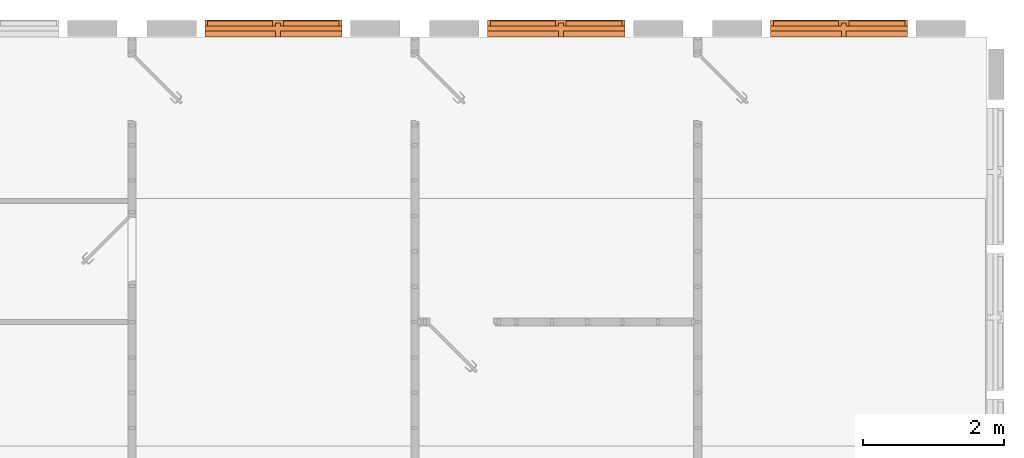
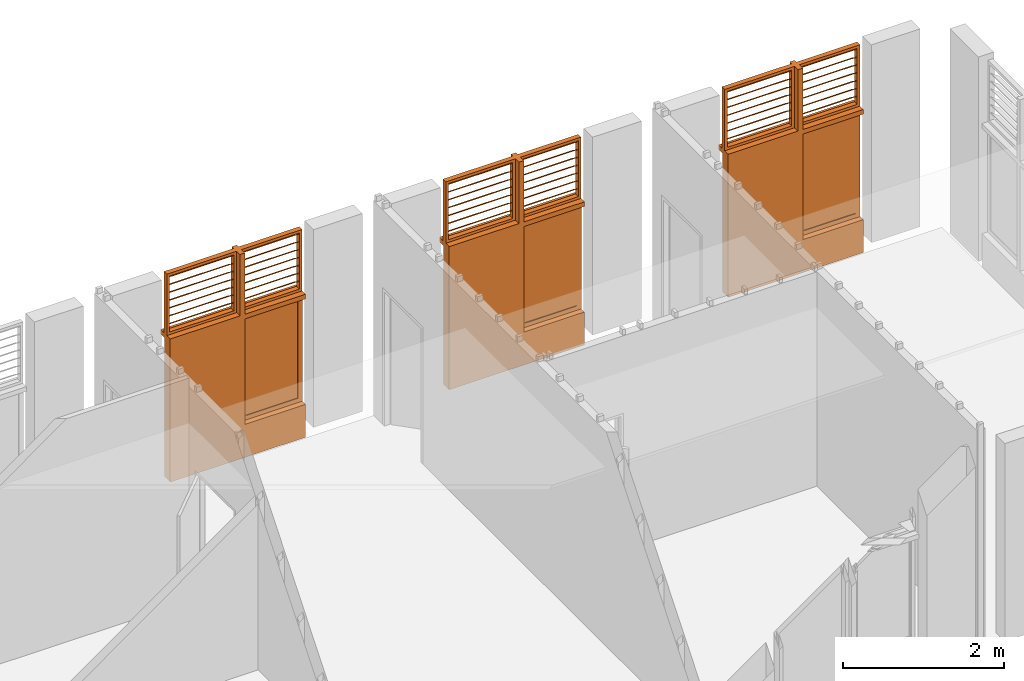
# One storey, part 20 of 20: 3 proxies.
"""IFC2X3 building model written with IfcOpenShell, lengths in metres."""

import ifcopenshell
import ifcopenshell.guid

model = None  # the IFC model being written
_history = None  # IfcOwnerHistory: only IFC2X3 demands one
_inside = {}  # id of a spatial element -> (the spatial element, [elements in it])
_under = {}  # id of a project, library or spatial element -> (it, [spatial elements below it])
_declared = {}  # id of a project -> (the project, [libraries it declares])
_typed = {}  # id of a type object -> (the type object, [elements of that type])
_made_of = {}  # id of a material, layer set ... -> (it, [elements and type objects made of it])


def new_model(schema):
    """Start an empty IFC model of exactly this schema.

    Asked for "IFC4X3", IfcOpenShell would pick the latest addendum, in which some entities
    have other attributes; the version numbers below select the first issue.
    IFC2X3 requires an IfcOwnerHistory on every rooted entity: one is made here for all.
    """
    global model, _history
    if schema == "IFC4X3":
        model = ifcopenshell.file(schema_version=(4, 3, 0, 0))
    else:
        model = ifcopenshell.file(schema=schema)
    _inside.clear()
    _under.clear()
    _declared.clear()
    _typed.clear()
    _made_of.clear()
    _history = None
    if model.schema == "IFC2X3":
        org = make("IfcOrganization", Name="unknown")
        user = make(
            "IfcPersonAndOrganization",
            ThePerson=make("IfcPerson", FamilyName="unknown"),
            TheOrganization=org,
        )
        app = make(
            "IfcApplication",
            ApplicationDeveloper=org,
            Version="unknown",
            ApplicationFullName="unknown",
            ApplicationIdentifier="unknown",
        )
        _history = make(
            "IfcOwnerHistory",
            OwningUser=user,
            OwningApplication=app,
            ChangeAction="ADDED",
            CreationDate=0,
        )
    return model


def make(cls, **values):
    """One entity of the class cls with the attributes given. An attribute that is None is left unset."""
    return model.create_entity(
        cls, **{name: value for name, value in values.items() if value is not None}
    )


def entity(cls, *values):
    """Any entity or typed value of the class cls, its attributes in the order of the schema. None: left unset."""
    e = model.create_entity(cls)
    for i, value in enumerate(values):
        if value is not None:
            e[i] = value
    return e


def rooted(cls, **values):
    """An entity with a GlobalId (a new one), such as an element, a storey or a relation."""
    return make(cls, GlobalId=ifcopenshell.guid.new(), OwnerHistory=_history, **values)


def si_unit(unit_type, name, prefix=None):
    """IfcSIUnit, for example si_unit("LENGTHUNIT", "METRE", prefix="MILLI")."""
    return make("IfcSIUnit", UnitType=unit_type, Prefix=prefix, Name=name)


def converted_unit(unit_type, name, factor, base, dimensions=None, offset=None):
    """IfcConversionBasedUnit, such as the inch: factor (a typed value) times the base unit."""
    return make(
        "IfcConversionBasedUnit"
        if offset is None
        else "IfcConversionBasedUnitWithOffset",
        ConversionOffset=offset,
        Dimensions=None
        if dimensions is None
        else entity("IfcDimensionalExponents", *dimensions),
        UnitType=unit_type,
        Name=name,
        ConversionFactor=make(
            "IfcMeasureWithUnit", ValueComponent=factor, UnitComponent=base
        ),
    )


def derived_unit(unit_type, elements):
    """IfcDerivedUnit: a product of units, each with its exponent."""
    return make(
        "IfcDerivedUnit",
        Elements=[
            make("IfcDerivedUnitElement", Unit=unit, Exponent=power)
            for unit, power in elements
        ],
        UnitType=unit_type,
    )


def assignment(units):
    """IfcUnitAssignment: the units of a project."""
    return None if units is None else make("IfcUnitAssignment", Units=units)


def point(xyz):
    """IfcCartesianPoint."""
    return None if xyz is None else make("IfcCartesianPoint", Coordinates=xyz)


def direction(xyz):
    """IfcDirection."""
    return None if xyz is None else make("IfcDirection", DirectionRatios=xyz)


def frame(location, z_axis=None, x_axis=None):
    """IfcAxis2Placement3D, a coordinate frame: its origin and axes. An axis left out is left unset."""
    return make(
        "IfcAxis2Placement3D",
        Location=point(location),
        Axis=direction(z_axis),
        RefDirection=direction(x_axis),
    )


def origin():
    """The frame at (0, 0, 0) with its axes left unset."""
    return frame((0.0, 0.0, 0.0))


def place(relative_to, where):
    """IfcLocalPlacement: puts the frame where relative to a parent placement (None: the world)."""
    return make(
        "IfcLocalPlacement", PlacementRelTo=relative_to, RelativePlacement=where
    )


def context(
    kind, dimensions, precision=None, world=None, true_north=None, identifier=None
):
    """IfcGeometricRepresentationContext, for example the 3D "Model" context."""
    return make(
        "IfcGeometricRepresentationContext",
        ContextIdentifier=identifier,
        ContextType=kind,
        CoordinateSpaceDimension=dimensions,
        Precision=precision,
        WorldCoordinateSystem=world,
        TrueNorth=true_north,
    )


def subcontext(parent, identifier, kind, view, scale=None):
    """IfcGeometricRepresentationSubContext, for example "Body" below "Model"."""
    return make(
        "IfcGeometricRepresentationSubContext",
        ContextIdentifier=identifier,
        ContextType=kind,
        ParentContext=parent,
        TargetScale=scale,
        TargetView=view,
    )


def project(units=None, contexts=None):
    """IfcProject with its units and contexts."""
    return rooted(
        "IfcProject",
        Name="project",
        RepresentationContexts=contexts,
        UnitsInContext=assignment(units),
    )


def spatial(cls, under=None, at=None, **own):
    """A site, building, storey or space (cls), placed at a placement, below another one or the project."""
    s = rooted(cls, ObjectPlacement=at, **own)
    if under is not None:
        _under.setdefault(under.id(), (under, []))[1].append(s)
    return s


def faces_of(points, faces, orient=None, outer=None):
    """IfcFace entities. A face is a list of loops; a loop is a list of indices into points, from 0.

    orient and outer hold one flag for each loop. By default every Orientation is true, the
    first loop of a face is its IfcFaceOuterBound and the others are IfcFaceBound.
    """
    made = []
    for i, loops in enumerate(faces):
        bounds = []
        for j, loop in enumerate(loops):
            is_outer = j == 0 if outer is None else outer[i][j]
            bounds.append(
                make(
                    "IfcFaceOuterBound" if is_outer else "IfcFaceBound",
                    Bound=make("IfcPolyLoop", Polygon=[points[k] for k in loop]),
                    Orientation=True if orient is None else orient[i][j],
                )
            )
        made.append(make("IfcFace", Bounds=bounds))
    return made


def faceted_brep(points, faces, orient=None, outer=None, voids=None):
    """IfcFacetedBrep: a solid bounded by flat faces; with voids (closed shells), ...WithVoids."""
    shared = [point(p) for p in points]
    hull = make("IfcClosedShell", CfsFaces=faces_of(shared, faces, orient, outer))
    if voids is None:
        return make("IfcFacetedBrep", Outer=hull)
    return make(
        "IfcFacetedBrepWithVoids",
        Outer=hull,
        Voids=[
            make(cls, CfsFaces=faces_of(shared, fs, o, b)) for cls, fs, o, b in voids
        ],
    )


def shape(context_of_items, identifier, shape_type, items):
    """IfcShapeRepresentation: the items that make up one representation, for example the "Body"."""
    return make(
        "IfcShapeRepresentation",
        ContextOfItems=context_of_items,
        RepresentationIdentifier=identifier,
        RepresentationType=shape_type,
        Items=items,
    )


def source(mapping_origin, context_of_items, identifier, shape_type, items):
    """IfcRepresentationMap: a shape defined once, which mapped items show again and again."""
    return make(
        "IfcRepresentationMap",
        MappingOrigin=mapping_origin,
        MappedRepresentation=shape(context_of_items, identifier, shape_type, items),
    )


def transform(
    local_origin,
    x_axis=None,
    y_axis=None,
    z_axis=None,
    scale=None,
    scale2=None,
    scale3=None,
    uniform=True,
):
    """IfcCartesianTransformationOperator3D, or its non-uniform kind. x_axis, y_axis, z_axis: its Axis1, 2, 3."""
    if uniform:
        return make(
            "IfcCartesianTransformationOperator3D",
            Axis1=direction(x_axis),
            Axis2=direction(y_axis),
            LocalOrigin=point(local_origin),
            Scale=scale,
            Axis3=direction(z_axis),
        )
    return make(
        "IfcCartesianTransformationOperator3DnonUniform",
        Axis1=direction(x_axis),
        Axis2=direction(y_axis),
        LocalOrigin=point(local_origin),
        Scale=scale,
        Axis3=direction(z_axis),
        Scale2=scale2,
        Scale3=scale3,
    )


def mapped(mapping_source, mapping_target):
    """IfcMappedItem: shows the shape of a source again, moved by a transform."""
    return make(
        "IfcMappedItem", MappingSource=mapping_source, MappingTarget=mapping_target
    )


def material(Name=None, Category=None):
    """IfcMaterial."""
    return make("IfcMaterial", Name=Name, Category=Category)


def material_list(materials):
    """IfcMaterialList."""
    return make("IfcMaterialList", Materials=materials)


def made_of(thing, what):
    """Note that an element or type object is made of a material, layer set ...; save() writes the relation."""
    if what is not None:
        _made_of.setdefault(what.id(), (what, []))[1].append(thing)
    return thing


def type_object(cls, material=None, **own):
    """A type object (cls), such as IfcWallType, which elements share."""
    return made_of(rooted(cls, **own), material)


def type_shapes(of_type, sources):
    """Give a type object the sources (RepresentationMaps) that its elements show as mapped items."""
    of_type.RepresentationMaps = sources


def element(
    cls,
    number,
    at=None,
    inside=None,
    cuts=None,
    type_object=None,
    material=None,
    context=None,
    identifier="Body",
    shape_type=None,
    held_by="IfcProductDefinitionShape",
    body=None,
    shapes=None,
    **own,
):
    """One element of the class cls, such as IfcWall. Its Tag is "e" and its number.

    at: its placement. inside: the storey or other place that contains it. cuts: it is an
    opening in that element (IfcRelVoidsElement). A single representation is given by context,
    identifier, shape_type and body (its items); several are given by shapes. held_by: the class
    of the entity that holds the representations. save() writes the other relations.
    """
    e = rooted(cls, Tag="e%d" % number, ObjectPlacement=at, **own)
    if body is not None:
        shapes = [shape(context, identifier, shape_type, body)]
    if shapes is not None:
        e.Representation = make(held_by, Representations=shapes)
    if inside is not None:
        _inside.setdefault(inside.id(), (inside, []))[1].append(e)
    if cuts is not None:
        rooted(
            "IfcRelVoidsElement", RelatingBuildingElement=cuts, RelatedOpeningElement=e
        )
    if type_object is not None:
        _typed.setdefault(type_object.id(), (type_object, []))[1].append(e)
    return made_of(e, material)


def aggregate(whole, parts):
    """IfcRelAggregates: a whole, such as a stair, and the parts it consists of."""
    return rooted("IfcRelAggregates", RelatingObject=whole, RelatedObjects=parts)


def save(model, path):
    """Write the relations noted so far, then the file.

    IfcRelAggregates (storeys below a building ...), IfcRelContainedInSpatialStructure (elements
    in a storey), IfcRelDefinesByType, IfcRelAssociatesMaterial and IfcRelDeclares: one each for
    every whole, place, type object, material and project.
    """
    for whole, parts in _under.values():
        aggregate(whole, parts)
    for where, things in _inside.values():
        rooted(
            "IfcRelContainedInSpatialStructure",
            RelatedElements=things,
            RelatingStructure=where,
        )
    for kind, things in _typed.values():
        rooted("IfcRelDefinesByType", RelatedObjects=things, RelatingType=kind)
    for what, things in _made_of.values():
        rooted("IfcRelAssociatesMaterial", RelatedObjects=things, RelatingMaterial=what)
    for by, libraries in _declared.values():
        rooted("IfcRelDeclares", RelatingContext=by, RelatedDefinitions=libraries)
    model.write(path)


model = new_model("IFC2X3")

# Units and contexts
model_context = context("Model", 3, precision=1e-05, world=origin(), true_north=direction((6.12303176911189e-17, 1.0)))
body_context = subcontext(model_context, "Body", "Model", "MODEL_VIEW")
ifc_project = project(units=[si_unit("LENGTHUNIT", "METRE"), si_unit("AREAUNIT", "SQUARE_METRE"), si_unit("VOLUMEUNIT", "CUBIC_METRE"), converted_unit("PLANEANGLEUNIT", "DEGREE", entity("IfcRatioMeasure", 0.0174532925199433), si_unit("PLANEANGLEUNIT", "RADIAN"), dimensions=[0, 0, 0, 0, 0, 0, 0]), si_unit("MASSUNIT", "GRAM", prefix="KILO"), derived_unit("MASSDENSITYUNIT", [(si_unit("MASSUNIT", "GRAM", prefix="KILO"), 1), (si_unit("LENGTHUNIT", "METRE"), -3)]), si_unit("TIMEUNIT", "SECOND"), si_unit("FREQUENCYUNIT", "HERTZ"), si_unit("THERMODYNAMICTEMPERATUREUNIT", "DEGREE_CELSIUS"), derived_unit("THERMALTRANSMITTANCEUNIT", [(si_unit("MASSUNIT", "GRAM", prefix="KILO"), 1), (si_unit("THERMODYNAMICTEMPERATUREUNIT", "KELVIN"), -1), (si_unit("TIMEUNIT", "SECOND"), -3)]), derived_unit("VOLUMETRICFLOWRATEUNIT", [(si_unit("LENGTHUNIT", "METRE"), 3), (si_unit("TIMEUNIT", "SECOND"), -1)]), si_unit("ELECTRICCURRENTUNIT", "AMPERE"), si_unit("ELECTRICVOLTAGEUNIT", "VOLT"), si_unit("POWERUNIT", "WATT"), si_unit("FORCEUNIT", "NEWTON", prefix="KILO"), si_unit("ILLUMINANCEUNIT", "LUX"), si_unit("LUMINOUSFLUXUNIT", "LUMEN"), si_unit("LUMINOUSINTENSITYUNIT", "CANDELA"), derived_unit("USERDEFINED", [(si_unit("MASSUNIT", "GRAM", prefix="KILO"), -1), (si_unit("LENGTHUNIT", "METRE"), -2), (si_unit("TIMEUNIT", "SECOND"), 3), (si_unit("LUMINOUSFLUXUNIT", "LUMEN"), 1)]), derived_unit("LINEARVELOCITYUNIT", [(si_unit("LENGTHUNIT", "METRE"), 1), (si_unit("TIMEUNIT", "SECOND"), -1)]), si_unit("PRESSUREUNIT", "PASCAL"), derived_unit("USERDEFINED", [(si_unit("LENGTHUNIT", "METRE"), -2), (si_unit("MASSUNIT", "GRAM", prefix="KILO"), 1), (si_unit("TIMEUNIT", "SECOND"), -2)])], contexts=[model_context])

# Site, building, storey
site_placement = place(None, origin())
site = spatial("IfcSite", under=ifc_project, at=site_placement, Name="Surface", CompositionType="ELEMENT")
building_placement = place(site_placement, origin())
building = spatial("IfcBuilding", under=site, at=building_placement, Name="ExPREF", CompositionType="ELEMENT")
storey_placement = place(building_placement, frame((0.0, 0.0, 4.27)))
storey = spatial("IfcBuildingStorey", under=building, at=storey_placement, Name="R+1", CompositionType="ELEMENT", Elevation=4.27)

# Proxies
ifc_material_1 = material(Name="AA-Aluminium")
ifc_material_2 = material(Name="AA-vitrage")
ifc_material_3 = material(Name="AA-bois menuiseries")
ifc_material_list_1 = material_list([ifc_material_1, ifc_material_2, ifc_material_3])
ifc_material_list_2 = material_list([ifc_material_1, ifc_material_2, ifc_material_3])
building_element_proxy_type = type_object("IfcBuildingElementProxyType", Name="R+2 porte + fenetre", PredefinedType="NOTDEFINED", material=ifc_material_list_2)
shared_shape = source(origin(), body_context, "Body", "Brep", [
    faceted_brep([(0.139999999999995, 0.113917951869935, 3.02140538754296), (0.139999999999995, 0.0970656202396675, 3.03320551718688), (0.139999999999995, 0.101483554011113, 3.03951498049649), (0.139999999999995, 0.11833588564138, 3.02771485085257), (0.930000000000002, 0.113917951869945, 3.02140538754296), (0.930000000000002, 0.118335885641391, 3.02771485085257), (0.930000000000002, 0.101483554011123, 3.03951498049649), (0.930000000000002, 0.0970656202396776, 3.03320551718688)], [[[0, 1, 2, 3]], [[4, 5, 6, 7]], [[1, 0, 4, 7]], [[2, 1, 7, 6]], [[3, 2, 6, 5]], [[0, 3, 5, 4]]]),
    faceted_brep([(0.139999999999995, 0.114720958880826, 3.02255220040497), (0.139999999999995, 0.117588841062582, 3.02664796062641), (0.139999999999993, 0.223609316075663, 2.95241162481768), (0.139999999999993, 0.220741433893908, 2.94831586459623), (0.930000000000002, 0.114720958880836, 3.02255220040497), (0.93, 0.220741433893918, 2.94831586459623), (0.93, 0.223609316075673, 2.95241162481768), (0.930000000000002, 0.117588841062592, 3.02664796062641)], [[[0, 1, 2, 3]], [[4, 5, 6, 7]], [[1, 0, 4, 7]], [[2, 1, 7, 6]], [[3, 2, 6, 5]], [[0, 3, 5, 4]]]),
    faceted_brep([(-0.930000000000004, 0.113917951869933, 3.02140538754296), (-0.930000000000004, 0.097065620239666, 3.03320551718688), (-0.930000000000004, 0.101483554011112, 3.03951498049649), (-0.930000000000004, 0.118335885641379, 3.02771485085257), (-0.00999999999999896, 0.113917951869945, 3.02140538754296), (-0.00999999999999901, 0.118335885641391, 3.02771485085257), (-0.0099999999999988, 0.101483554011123, 3.03951498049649), (-0.00999999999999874, 0.0970656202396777, 3.03320551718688)], [[[0, 1, 2, 3]], [[4, 5, 6, 7]], [[1, 0, 4, 7]], [[2, 1, 7, 6]], [[3, 2, 6, 5]], [[0, 3, 5, 4]]]),
    faceted_brep([(-0.930000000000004, 0.114720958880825, 3.02255220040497), (-0.930000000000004, 0.11758884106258, 3.02664796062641), (-0.930000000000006, 0.223609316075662, 2.95241162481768), (-0.930000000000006, 0.220741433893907, 2.94831586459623), (-0.00999999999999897, 0.114720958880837, 3.02255220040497), (-0.0100000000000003, 0.220741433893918, 2.94831586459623), (-0.0100000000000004, 0.223609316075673, 2.95241162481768), (-0.009999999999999, 0.117588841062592, 3.02664796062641)], [[[0, 1, 2, 3]], [[4, 5, 6, 7]], [[1, 0, 4, 7]], [[2, 1, 7, 6]], [[3, 2, 6, 5]], [[0, 3, 5, 4]]]),
    faceted_brep([(0.139999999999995, 0.113917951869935, 2.90240538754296), (0.139999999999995, 0.0970656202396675, 2.91420551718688), (0.139999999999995, 0.101483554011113, 2.92051498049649), (0.139999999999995, 0.11833588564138, 2.90871485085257), (0.930000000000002, 0.113917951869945, 2.90240538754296), (0.930000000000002, 0.118335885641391, 2.90871485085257), (0.930000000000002, 0.101483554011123, 2.92051498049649), (0.930000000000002, 0.0970656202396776, 2.91420551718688)], [[[0, 1, 2, 3]], [[4, 5, 6, 7]], [[1, 0, 4, 7]], [[2, 1, 7, 6]], [[3, 2, 6, 5]], [[0, 3, 5, 4]]]),
    faceted_brep([(0.139999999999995, 0.114720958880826, 2.90355220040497), (0.139999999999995, 0.117588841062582, 2.90764796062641), (0.139999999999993, 0.223609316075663, 2.83341162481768), (0.139999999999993, 0.220741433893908, 2.82931586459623), (0.930000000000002, 0.114720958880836, 2.90355220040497), (0.93, 0.220741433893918, 2.82931586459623), (0.93, 0.223609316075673, 2.83341162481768), (0.930000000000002, 0.117588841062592, 2.90764796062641)], [[[0, 1, 2, 3]], [[4, 5, 6, 7]], [[1, 0, 4, 7]], [[2, 1, 7, 6]], [[3, 2, 6, 5]], [[0, 3, 5, 4]]]),
    faceted_brep([(-0.930000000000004, 0.113917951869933, 2.90240538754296), (-0.930000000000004, 0.097065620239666, 2.91420551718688), (-0.930000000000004, 0.101483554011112, 2.92051498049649), (-0.930000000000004, 0.118335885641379, 2.90871485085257), (-0.00999999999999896, 0.113917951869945, 2.90240538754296), (-0.00999999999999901, 0.118335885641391, 2.90871485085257), (-0.0099999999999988, 0.101483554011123, 2.92051498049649), (-0.00999999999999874, 0.0970656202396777, 2.91420551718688)], [[[0, 1, 2, 3]], [[4, 5, 6, 7]], [[1, 0, 4, 7]], [[2, 1, 7, 6]], [[3, 2, 6, 5]], [[0, 3, 5, 4]]]),
    faceted_brep([(-0.930000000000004, 0.114720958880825, 2.90355220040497), (-0.930000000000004, 0.11758884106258, 2.90764796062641), (-0.930000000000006, 0.223609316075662, 2.83341162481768), (-0.930000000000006, 0.220741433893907, 2.82931586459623), (-0.00999999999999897, 0.114720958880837, 2.90355220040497), (-0.0100000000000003, 0.220741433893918, 2.82931586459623), (-0.0100000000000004, 0.223609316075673, 2.83341162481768), (-0.009999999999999, 0.117588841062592, 2.90764796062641)], [[[0, 1, 2, 3]], [[4, 5, 6, 7]], [[1, 0, 4, 7]], [[2, 1, 7, 6]], [[3, 2, 6, 5]], [[0, 3, 5, 4]]]),
    faceted_brep([(0.139999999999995, 0.113917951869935, 2.78340538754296), (0.139999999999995, 0.0970656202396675, 2.79520551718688), (0.139999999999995, 0.101483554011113, 2.80151498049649), (0.139999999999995, 0.11833588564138, 2.78971485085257), (0.930000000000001, 0.113917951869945, 2.78340538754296), (0.930000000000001, 0.118335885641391, 2.78971485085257), (0.930000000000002, 0.101483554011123, 2.80151498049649), (0.930000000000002, 0.0970656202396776, 2.79520551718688)], [[[0, 1, 2, 3]], [[4, 5, 6, 7]], [[1, 0, 4, 7]], [[2, 1, 7, 6]], [[3, 2, 6, 5]], [[0, 3, 5, 4]]]),
    faceted_brep([(0.139999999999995, 0.114720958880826, 2.78455220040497), (0.139999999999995, 0.117588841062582, 2.78864796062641), (0.139999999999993, 0.223609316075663, 2.71441162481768), (0.139999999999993, 0.220741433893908, 2.71031586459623), (0.930000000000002, 0.114720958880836, 2.78455220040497), (0.93, 0.220741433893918, 2.71031586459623), (0.93, 0.223609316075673, 2.71441162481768), (0.930000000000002, 0.117588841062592, 2.78864796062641)], [[[0, 1, 2, 3]], [[4, 5, 6, 7]], [[1, 0, 4, 7]], [[2, 1, 7, 6]], [[3, 2, 6, 5]], [[0, 3, 5, 4]]]),
    faceted_brep([(-0.930000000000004, 0.113917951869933, 2.78340538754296), (-0.930000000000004, 0.097065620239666, 2.79520551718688), (-0.930000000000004, 0.101483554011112, 2.80151498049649), (-0.930000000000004, 0.118335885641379, 2.78971485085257), (-0.00999999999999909, 0.113917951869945, 2.78340538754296), (-0.00999999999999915, 0.118335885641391, 2.78971485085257), (-0.00999999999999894, 0.101483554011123, 2.80151498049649), (-0.00999999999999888, 0.0970656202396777, 2.79520551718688)], [[[0, 1, 2, 3]], [[4, 5, 6, 7]], [[1, 0, 4, 7]], [[2, 1, 7, 6]], [[3, 2, 6, 5]], [[0, 3, 5, 4]]]),
    faceted_brep([(-0.930000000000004, 0.114720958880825, 2.78455220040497), (-0.930000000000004, 0.11758884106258, 2.78864796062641), (-0.930000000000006, 0.223609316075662, 2.71441162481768), (-0.930000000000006, 0.220741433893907, 2.71031586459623), (-0.0099999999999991, 0.114720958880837, 2.78455220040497), (-0.0100000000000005, 0.220741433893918, 2.71031586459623), (-0.0100000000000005, 0.223609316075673, 2.71441162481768), (-0.00999999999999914, 0.117588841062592, 2.78864796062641)], [[[0, 1, 2, 3]], [[4, 5, 6, 7]], [[1, 0, 4, 7]], [[2, 1, 7, 6]], [[3, 2, 6, 5]], [[0, 3, 5, 4]]]),
    faceted_brep([(-0.930000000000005, 0.113917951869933, 2.66440538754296), (-0.930000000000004, 0.097065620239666, 2.67620551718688), (-0.930000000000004, 0.101483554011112, 2.68251498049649), (-0.930000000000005, 0.118335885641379, 2.67071485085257), (-0.00999999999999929, 0.113917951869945, 2.66440538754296), (-0.00999999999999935, 0.118335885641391, 2.67071485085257), (-0.00999999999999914, 0.101483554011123, 2.68251498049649), (-0.00999999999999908, 0.0970656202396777, 2.67620551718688)], [[[0, 1, 2, 3]], [[4, 5, 6, 7]], [[1, 0, 4, 7]], [[2, 1, 7, 6]], [[3, 2, 6, 5]], [[0, 3, 5, 4]]]),
    faceted_brep([(-0.930000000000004, 0.114720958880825, 2.66555220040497), (-0.930000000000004, 0.11758884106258, 2.66964796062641), (-0.930000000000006, 0.223609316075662, 2.59541162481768), (-0.930000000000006, 0.220741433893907, 2.59131586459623), (-0.0099999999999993, 0.114720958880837, 2.66555220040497), (-0.0100000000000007, 0.220741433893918, 2.59131586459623), (-0.0100000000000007, 0.223609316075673, 2.59541162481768), (-0.00999999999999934, 0.117588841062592, 2.66964796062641)], [[[0, 1, 2, 3]], [[4, 5, 6, 7]], [[1, 0, 4, 7]], [[2, 1, 7, 6]], [[3, 2, 6, 5]], [[0, 3, 5, 4]]]),
    faceted_brep([(-0.930000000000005, 0.113917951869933, 2.54540538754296), (-0.930000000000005, 0.097065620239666, 2.55720551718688), (-0.930000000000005, 0.101483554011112, 2.56351498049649), (-0.930000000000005, 0.118335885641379, 2.55171485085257), (-0.0099999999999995, 0.113917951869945, 2.54540538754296), (-0.00999999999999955, 0.118335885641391, 2.55171485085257), (-0.00999999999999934, 0.101483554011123, 2.56351498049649), (-0.00999999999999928, 0.0970656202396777, 2.55720551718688)], [[[0, 1, 2, 3]], [[4, 5, 6, 7]], [[1, 0, 4, 7]], [[2, 1, 7, 6]], [[3, 2, 6, 5]], [[0, 3, 5, 4]]]),
    faceted_brep([(-0.930000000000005, 0.114720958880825, 2.54655220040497), (-0.930000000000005, 0.11758884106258, 2.55064796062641), (-0.930000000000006, 0.223609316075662, 2.47641162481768), (-0.930000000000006, 0.220741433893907, 2.47231586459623), (-0.00999999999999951, 0.114720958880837, 2.54655220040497), (-0.0100000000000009, 0.220741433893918, 2.47231586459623), (-0.0100000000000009, 0.223609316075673, 2.47641162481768), (-0.00999999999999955, 0.117588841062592, 2.55064796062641)], [[[0, 1, 2, 3]], [[4, 5, 6, 7]], [[1, 0, 4, 7]], [[2, 1, 7, 6]], [[3, 2, 6, 5]], [[0, 3, 5, 4]]]),
    faceted_brep([(0.139999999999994, 0.113917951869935, 2.66440538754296), (0.139999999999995, 0.0970656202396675, 2.67620551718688), (0.139999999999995, 0.101483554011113, 2.68251498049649), (0.139999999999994, 0.11833588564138, 2.67071485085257), (0.930000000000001, 0.113917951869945, 2.66440538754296), (0.930000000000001, 0.118335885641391, 2.67071485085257), (0.930000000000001, 0.101483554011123, 2.68251498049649), (0.930000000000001, 0.0970656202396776, 2.67620551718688)], [[[0, 1, 2, 3]], [[4, 5, 6, 7]], [[1, 0, 4, 7]], [[2, 1, 7, 6]], [[3, 2, 6, 5]], [[0, 3, 5, 4]]]),
    faceted_brep([(0.139999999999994, 0.114720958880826, 2.66555220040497), (0.139999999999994, 0.117588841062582, 2.66964796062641), (0.139999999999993, 0.223609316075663, 2.59541162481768), (0.139999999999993, 0.220741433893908, 2.59131586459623), (0.930000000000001, 0.114720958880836, 2.66555220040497), (0.93, 0.220741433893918, 2.59131586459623), (0.93, 0.223609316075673, 2.59541162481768), (0.930000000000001, 0.117588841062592, 2.66964796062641)], [[[0, 1, 2, 3]], [[4, 5, 6, 7]], [[1, 0, 4, 7]], [[2, 1, 7, 6]], [[3, 2, 6, 5]], [[0, 3, 5, 4]]]),
    faceted_brep([(0.139999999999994, 0.113917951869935, 2.54540538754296), (0.139999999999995, 0.0970656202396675, 2.55720551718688), (0.139999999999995, 0.101483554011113, 2.56351498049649), (0.139999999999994, 0.11833588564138, 2.55171485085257), (0.930000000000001, 0.113917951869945, 2.54540538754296), (0.930000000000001, 0.118335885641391, 2.55171485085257), (0.930000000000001, 0.101483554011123, 2.56351498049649), (0.930000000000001, 0.0970656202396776, 2.55720551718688)], [[[0, 1, 2, 3]], [[4, 5, 6, 7]], [[1, 0, 4, 7]], [[2, 1, 7, 6]], [[3, 2, 6, 5]], [[0, 3, 5, 4]]]),
    faceted_brep([(0.139999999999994, 0.114720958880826, 2.54655220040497), (0.139999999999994, 0.117588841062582, 2.55064796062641), (0.139999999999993, 0.223609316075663, 2.47641162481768), (0.139999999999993, 0.220741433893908, 2.47231586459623), (0.930000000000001, 0.114720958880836, 2.54655220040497), (0.93, 0.220741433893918, 2.47231586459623), (0.93, 0.223609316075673, 2.47641162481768), (0.930000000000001, 0.117588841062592, 2.55064796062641)], [[[0, 1, 2, 3]], [[4, 5, 6, 7]], [[1, 0, 4, 7]], [[2, 1, 7, 6]], [[3, 2, 6, 5]], [[0, 3, 5, 4]]]),
    faceted_brep([(0.139999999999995, 0.113917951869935, 2.42640538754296), (0.139999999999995, 0.0970656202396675, 2.43820551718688), (0.139999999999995, 0.101483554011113, 2.44451498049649), (0.139999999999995, 0.11833588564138, 2.43271485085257), (0.930000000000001, 0.113917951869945, 2.42640538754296), (0.930000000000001, 0.118335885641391, 2.43271485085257), (0.930000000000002, 0.101483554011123, 2.44451498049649), (0.930000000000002, 0.0970656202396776, 2.43820551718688)], [[[0, 1, 2, 3]], [[4, 5, 6, 7]], [[1, 0, 4, 7]], [[2, 1, 7, 6]], [[3, 2, 6, 5]], [[0, 3, 5, 4]]]),
    faceted_brep([(0.139999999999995, 0.114720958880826, 2.42755220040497), (0.139999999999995, 0.117588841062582, 2.43164796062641), (0.139999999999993, 0.223609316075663, 2.35741162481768), (0.139999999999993, 0.220741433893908, 2.35331586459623), (0.930000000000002, 0.114720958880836, 2.42755220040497), (0.93, 0.220741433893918, 2.35331586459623), (0.93, 0.223609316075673, 2.35741162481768), (0.930000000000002, 0.117588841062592, 2.43164796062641)], [[[0, 1, 2, 3]], [[4, 5, 6, 7]], [[1, 0, 4, 7]], [[2, 1, 7, 6]], [[3, 2, 6, 5]], [[0, 3, 5, 4]]]),
    faceted_brep([(0.139999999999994, 0.113917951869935, 2.30740538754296), (0.139999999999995, 0.0970656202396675, 2.31920551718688), (0.139999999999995, 0.101483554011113, 2.32551498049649), (0.139999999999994, 0.11833588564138, 2.31371485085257), (0.930000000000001, 0.113917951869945, 2.30740538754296), (0.930000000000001, 0.118335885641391, 2.31371485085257), (0.930000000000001, 0.101483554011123, 2.32551498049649), (0.930000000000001, 0.0970656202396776, 2.31920551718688)], [[[0, 1, 2, 3]], [[4, 5, 6, 7]], [[1, 0, 4, 7]], [[2, 1, 7, 6]], [[3, 2, 6, 5]], [[0, 3, 5, 4]]]),
    faceted_brep([(0.139999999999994, 0.114720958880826, 2.30855220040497), (0.139999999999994, 0.117588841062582, 2.31264796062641), (0.139999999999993, 0.223609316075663, 2.23841162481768), (0.139999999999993, 0.220741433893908, 2.23431586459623), (0.930000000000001, 0.114720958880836, 2.30855220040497), (0.93, 0.220741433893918, 2.23431586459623), (0.93, 0.223609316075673, 2.23841162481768), (0.930000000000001, 0.117588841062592, 2.31264796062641)], [[[0, 1, 2, 3]], [[4, 5, 6, 7]], [[1, 0, 4, 7]], [[2, 1, 7, 6]], [[3, 2, 6, 5]], [[0, 3, 5, 4]]]),
    faceted_brep([(-0.930000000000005, 0.113917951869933, 2.42640538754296), (-0.930000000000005, 0.097065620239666, 2.43820551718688), (-0.930000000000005, 0.101483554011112, 2.44451498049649), (-0.930000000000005, 0.118335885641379, 2.43271485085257), (-0.0099999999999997, 0.113917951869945, 2.42640538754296), (-0.00999999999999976, 0.118335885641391, 2.43271485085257), (-0.00999999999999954, 0.101483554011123, 2.44451498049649), (-0.00999999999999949, 0.0970656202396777, 2.43820551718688)], [[[0, 1, 2, 3]], [[4, 5, 6, 7]], [[1, 0, 4, 7]], [[2, 1, 7, 6]], [[3, 2, 6, 5]], [[0, 3, 5, 4]]]),
    faceted_brep([(-0.930000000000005, 0.114720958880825, 2.42755220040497), (-0.930000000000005, 0.11758884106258, 2.43164796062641), (-0.930000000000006, 0.223609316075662, 2.35741162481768), (-0.930000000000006, 0.220741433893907, 2.35331586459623), (-0.00999999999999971, 0.114720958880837, 2.42755220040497), (-0.0100000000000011, 0.220741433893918, 2.35331586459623), (-0.0100000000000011, 0.223609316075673, 2.35741162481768), (-0.00999999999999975, 0.117588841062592, 2.43164796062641)], [[[0, 1, 2, 3]], [[4, 5, 6, 7]], [[1, 0, 4, 7]], [[2, 1, 7, 6]], [[3, 2, 6, 5]], [[0, 3, 5, 4]]]),
    faceted_brep([(-0.930000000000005, 0.113917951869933, 2.30740538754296), (-0.930000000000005, 0.097065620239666, 2.31920551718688), (-0.930000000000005, 0.101483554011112, 2.32551498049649), (-0.930000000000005, 0.118335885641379, 2.31371485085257), (-0.0099999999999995, 0.113917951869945, 2.30740538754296), (-0.00999999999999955, 0.118335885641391, 2.31371485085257), (-0.00999999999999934, 0.101483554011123, 2.32551498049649), (-0.00999999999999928, 0.0970656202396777, 2.31920551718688)], [[[0, 1, 2, 3]], [[4, 5, 6, 7]], [[1, 0, 4, 7]], [[2, 1, 7, 6]], [[3, 2, 6, 5]], [[0, 3, 5, 4]]]),
    faceted_brep([(-0.930000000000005, 0.114720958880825, 2.30855220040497), (-0.930000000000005, 0.11758884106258, 2.31264796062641), (-0.930000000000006, 0.223609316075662, 2.23841162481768), (-0.930000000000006, 0.220741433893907, 2.23431586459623), (-0.00999999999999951, 0.114720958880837, 2.30855220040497), (-0.0100000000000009, 0.220741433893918, 2.23431586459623), (-0.0100000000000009, 0.223609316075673, 2.23841162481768), (-0.00999999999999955, 0.117588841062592, 2.31264796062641)], [[[0, 1, 2, 3]], [[4, 5, 6, 7]], [[1, 0, 4, 7]], [[2, 1, 7, 6]], [[3, 2, 6, 5]], [[0, 3, 5, 4]]]),
    faceted_brep([(0.904999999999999, 0.0900000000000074, 2.03499999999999), (0.164999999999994, 0.0900000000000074, 2.03499999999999), (0.164999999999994, 0.0900000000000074, 0.564999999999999), (0.904999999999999, 0.0900000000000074, 0.564999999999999), (0.904999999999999, 0.110000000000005, 2.03499999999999), (0.904999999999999, 0.110000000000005, 0.564999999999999), (0.164999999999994, 0.110000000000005, 0.564999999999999), (0.164999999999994, 0.110000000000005, 2.03499999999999)], [[[0, 1, 2, 3]], [[4, 5, 6, 7]], [[0, 4, 7, 1]], [[1, 7, 6, 2]], [[2, 6, 5, 3]], [[3, 5, 4, 0]]]),
    faceted_brep([(0.934999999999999, 0.0800000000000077, 2.065), (0.934999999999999, 0.0800000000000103, 0.534999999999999), (0.934999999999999, 0.120000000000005, 0.534999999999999), (0.934999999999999, 0.120000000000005, 2.065), (0.904999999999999, 0.120000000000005, 2.035), (0.904999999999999, 0.120000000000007, 0.564999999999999), (0.904999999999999, 0.0800000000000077, 0.564999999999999), (0.904999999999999, 0.0800000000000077, 2.03499999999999), (0.134999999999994, 0.0800000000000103, 0.534999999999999), (0.134999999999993, 0.120000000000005, 0.534999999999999), (0.164999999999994, 0.120000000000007, 0.564999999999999), (0.164999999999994, 0.0800000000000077, 0.564999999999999), (0.134999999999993, 0.0800000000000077, 2.065), (0.134999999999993, 0.120000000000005, 2.065), (0.164999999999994, 0.120000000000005, 2.035), (0.164999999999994, 0.0800000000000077, 2.03499999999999)], [[[0, 1, 2, 3]], [[4, 5, 6, 7]], [[1, 8, 9, 2]], [[5, 10, 11, 6]], [[8, 12, 13, 9]], [[10, 14, 15, 11]], [[3, 2, 9, 13], [5, 4, 14, 10]], [[12, 0, 3, 13]], [[1, 0, 12, 8], [7, 6, 11, 15]], [[14, 4, 7, 15]]]),
    faceted_brep([(0.969999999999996, 0.140000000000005, 0.500000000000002), (0.969999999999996, 0.139999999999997, 2.09999999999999), (0.969999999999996, 0.080000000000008, 2.09999999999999), (0.969999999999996, 0.080000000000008, 0.500000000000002), (0.919999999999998, 0.120000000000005, 0.549999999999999), (0.919999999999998, 0.119999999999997, 2.05), (0.919999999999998, 0.140000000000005, 2.04999999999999), (0.919999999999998, 0.140000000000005, 0.549999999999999), (0.934999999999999, 0.0800000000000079, 0.534999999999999), (0.934999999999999, 0.08, 2.065), (0.934999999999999, 0.120000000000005, 2.065), (0.934999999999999, 0.120000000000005, 0.534999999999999), (0.099999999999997, 0.139999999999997, 2.09999999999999), (0.0999999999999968, 0.080000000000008, 2.09999999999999), (0.149999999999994, 0.119999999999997, 2.05), (0.149999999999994, 0.140000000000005, 2.04999999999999), (0.134999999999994, 0.08, 2.065), (0.134999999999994, 0.120000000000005, 2.065), (0.0999999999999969, 0.140000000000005, 0.500000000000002), (0.0999999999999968, 0.080000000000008, 0.500000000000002), (0.149999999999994, 0.120000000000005, 0.549999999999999), (0.149999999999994, 0.140000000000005, 0.549999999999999), (0.134999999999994, 0.0800000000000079, 0.534999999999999), (0.134999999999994, 0.120000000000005, 0.534999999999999)], [[[0, 1, 2, 3]], [[4, 5, 6, 7]], [[8, 9, 10, 11]], [[1, 12, 13, 2]], [[5, 14, 15, 6]], [[9, 16, 17, 10]], [[12, 18, 19, 13]], [[14, 20, 21, 15]], [[16, 22, 23, 17]], [[3, 2, 13, 19], [9, 8, 22, 16]], [[18, 0, 3, 19]], [[1, 0, 18, 12], [7, 6, 15, 21]], [[20, 4, 7, 21]], [[5, 4, 20, 14], [11, 10, 17, 23]], [[22, 8, 11, 23]]], outer=[[True], [True], [True], [True], [True], [True], [True], [True], [True], [True, False], [True], [True, False], [True], [False, True], [True]]),
    faceted_brep([(-0.97, 0.155, 2.17), (-0.97, 0.155, 3.10000000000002), (0.0299999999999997, 0.155, 3.10000000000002), (0.0299999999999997, 0.155, 2.17), (-0.930000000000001, 0.155, 2.21), (-0.0100000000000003, 0.155, 2.21), (-0.0100000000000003, 0.155, 3.06000000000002), (-0.930000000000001, 0.155, 3.06000000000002), (-0.930000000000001, 0.085000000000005, 2.21), (-0.930000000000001, 0.085000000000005, 3.06000000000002), (-0.0100000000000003, 0.085000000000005, 3.06000000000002), (-0.0100000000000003, 0.085000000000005, 2.21), (-0.97, 0.085000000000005, 2.17), (0.0299999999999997, 0.085000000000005, 2.17), (0.0299999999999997, 0.085000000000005, 3.10000000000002), (-0.97, 0.085000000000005, 3.10000000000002)], [[[0, 1, 2, 3], [4, 5, 6, 7]], [[8, 9, 10, 11], [12, 13, 14, 15]], [[3, 13, 12, 0]], [[4, 8, 11, 5]], [[0, 12, 15, 1]], [[7, 9, 8, 4]], [[2, 14, 13, 3]], [[5, 11, 10, 6]], [[1, 15, 14, 2]], [[6, 10, 9, 7]]], outer=[[True, False], [False, True], [True], [True], [True], [True], [True], [True], [True], [True]]),
    faceted_brep([(0.0999999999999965, 0.155, 2.16999999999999), (0.0999999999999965, 0.155, 3.10000000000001), (0.970000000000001, 0.155, 3.10000000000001), (0.970000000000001, 0.155, 2.16999999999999), (0.139999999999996, 0.155, 2.20999999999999), (0.930000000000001, 0.155, 2.20999999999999), (0.930000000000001, 0.155, 3.06000000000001), (0.139999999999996, 0.155, 3.06000000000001), (0.139999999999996, 0.085000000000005, 2.20999999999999), (0.139999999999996, 0.085000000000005, 3.06000000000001), (0.930000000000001, 0.085000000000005, 3.06000000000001), (0.930000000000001, 0.085000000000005, 2.20999999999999), (0.0999999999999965, 0.085000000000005, 2.16999999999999), (0.970000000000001, 0.085000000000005, 2.16999999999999), (0.970000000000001, 0.085000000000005, 3.10000000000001), (0.0999999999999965, 0.085000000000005, 3.10000000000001)], [[[0, 1, 2, 3], [4, 5, 6, 7]], [[8, 9, 10, 11], [12, 13, 14, 15]], [[3, 13, 12, 0]], [[2, 14, 13, 3]], [[5, 11, 10, 6]], [[4, 8, 11, 5]], [[0, 12, 15, 1]], [[7, 9, 8, 4]], [[1, 15, 14, 2]], [[6, 10, 9, 7]]], outer=[[True, False], [False, True], [True], [True], [True], [True], [True], [True], [True], [True]]),
    faceted_brep([(0.0999999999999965, 0.2, 3.10000000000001), (0.0999999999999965, 0.2, 2.17), (0.0299999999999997, 0.2, 2.17), (0.0299999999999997, 0.2, 3.10000000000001), (0.0299999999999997, 0.0, 3.10000000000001), (0.0999999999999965, 0.0, 3.10000000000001), (0.0999999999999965, 0.0, 2.17), (0.0299999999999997, 0.0, 2.17)], [[[0, 1, 2, 3]], [[3, 4, 5, 0]], [[0, 5, 6, 1]], [[2, 7, 4, 3]], [[1, 6, 7, 2]], [[5, 4, 7, 6]]]),
    faceted_brep([(0.0299999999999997, 0.0, 2.1), (0.0299999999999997, 0.0, 0.0), (0.0999999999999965, 0.0, 0.0), (0.0999999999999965, 0.0, 2.1), (0.0299999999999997, 0.2, 0.0), (0.0299999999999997, 0.2, 2.1), (0.0999999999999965, 0.2, 0.0), (0.0999999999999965, 0.2, 2.1)], [[[0, 1, 2, 3]], [[4, 1, 0, 5]], [[6, 2, 1, 4]], [[7, 3, 2, 6]], [[5, 0, 3, 7]], [[5, 7, 6, 4]]]),
    faceted_brep([(-0.0050000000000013, 0.0, 2.065), (-0.0050000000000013, 0.0400000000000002, 2.065), (-0.935000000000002, 0.0400000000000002, 2.065), (-0.935000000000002, 0.0, 2.065), (-0.0050000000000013, 0.0, 0.0), (-0.935000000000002, 0.0, 0.0), (-0.935000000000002, 0.0400000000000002, 0.0), (-0.0050000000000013, 0.0400000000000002, 0.0)], [[[0, 1, 2, 3]], [[4, 5, 6, 7]], [[3, 5, 4, 0]], [[2, 6, 5, 3]], [[1, 7, 6, 2]], [[0, 4, 7, 1]]]),
    faceted_brep([(-0.970000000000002, 0.14, 0.0), (-0.920000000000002, 0.14, 0.0), (-0.920000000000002, 0.0400000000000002, 0.0), (-0.935000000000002, 0.0400000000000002, 0.0), (-0.935000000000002, 0.0, 0.0), (-0.970000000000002, 0.0, 0.0), (-0.969999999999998, 0.0, 2.1), (-0.969999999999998, 0.14, 2.1), (-0.934999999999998, 0.0, 2.065), (-0.004999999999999, 0.0, 2.065), (-0.00500000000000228, 0.0, 0.0), (0.0299999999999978, 0.0, 0.0), (0.0300000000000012, 0.0, 2.1), (-0.934999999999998, 0.0400000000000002, 2.065), (0.0300000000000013, 0.14, 2.1), (0.0299999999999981, 0.14, 0.0), (-0.0200000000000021, 0.140000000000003, 0.0), (-0.0199999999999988, 0.140000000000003, 2.05), (-0.919999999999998, 0.14, 2.05), (-0.004999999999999, 0.0400000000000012, 2.065), (-0.00500000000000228, 0.0400000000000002, 0.0), (-0.0200000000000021, 0.0400000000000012, 0.0), (-0.919999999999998, 0.0400000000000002, 2.05), (-0.0199999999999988, 0.0400000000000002, 2.05)], [[[0, 1, 2, 3, 4, 5]], [[5, 6, 7, 0]], [[4, 8, 9, 10, 11, 12, 6, 5]], [[3, 13, 8, 4]], [[0, 7, 14, 15, 16, 17, 18, 1]], [[6, 12, 14, 7]], [[13, 19, 9, 8]], [[15, 11, 10, 20, 21, 16]], [[2, 22, 23, 21, 20, 19, 13, 3]], [[1, 18, 22, 2]], [[18, 17, 23, 22]], [[12, 11, 15, 14]], [[19, 20, 10, 9]], [[17, 16, 21, 23]]]),
    faceted_brep([(0.970000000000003, 0.140000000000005, 0.0), (0.0999999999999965, 0.140000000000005, 0.0), (0.0999999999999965, 0.140000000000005, 0.500000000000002), (0.970000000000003, 0.140000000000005, 0.500000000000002), (0.970000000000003, 0.0, 0.0), (0.970000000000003, 0.0, 0.500000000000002), (0.0999999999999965, 0.0, 0.500000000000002), (0.0999999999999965, 0.0, 0.0)], [[[0, 1, 2, 3]], [[4, 5, 6, 7]], [[3, 5, 4, 0]], [[2, 6, 5, 3]], [[1, 7, 6, 2]], [[0, 4, 7, 1]]]),
    faceted_brep([(0.97, 0.24, 2.09999999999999), (-0.97, 0.24, 2.1), (-0.97, 0.24, 2.17), (0.970000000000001, 0.24, 2.16999999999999), (0.97, 0.0, 2.09999999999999), (0.97, 0.0, 2.16999999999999), (-0.970000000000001, 0.0, 2.17), (-0.97, 0.0, 2.1)], [[[0, 1, 2, 3]], [[4, 5, 6, 7]], [[3, 5, 4, 0]], [[1, 7, 6, 2]], [[0, 4, 7, 1]], [[2, 6, 5, 3]]]),
])
type_shapes(building_element_proxy_type, [shared_shape])
proxy_1_placement = place(storey_placement, frame((59.4897436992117, -185.17648794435, 0.0)))
element("IfcBuildingElementProxy", 1, at=proxy_1_placement, inside=storey, type_object=building_element_proxy_type, material=ifc_material_list_1, Name="R+1 porte + fenetre:R+2 porte + fenetre", ObjectType="R+2 porte + fenetre", context=body_context, shape_type="MappedRepresentation", body=[
    mapped(shared_shape, transform((0.0, 0.0, 0.0), scale=1.0)),
])
ifc_material_list_3 = material_list([ifc_material_1, ifc_material_2, ifc_material_3])
proxy_2_placement = place(storey_placement, frame((63.4897436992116, -185.17648794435, 0.0)))
element("IfcBuildingElementProxy", 2, at=proxy_2_placement, inside=storey, type_object=building_element_proxy_type, material=ifc_material_list_3, Name="R+1 porte + fenetre:R+2 porte + fenetre", ObjectType="R+2 porte + fenetre", context=body_context, shape_type="MappedRepresentation", body=[
    mapped(shared_shape, transform((0.0, 0.0, 0.0), scale=1.0)),
])
ifc_material_list_4 = material_list([ifc_material_1, ifc_material_2, ifc_material_3])
proxy_3_placement = place(storey_placement, frame((67.4897436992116, -185.17648794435, 0.0)))
element("IfcBuildingElementProxy", 3, at=proxy_3_placement, inside=storey, type_object=building_element_proxy_type, material=ifc_material_list_4, Name="R+1 porte + fenetre:R+2 porte + fenetre", ObjectType="R+2 porte + fenetre", context=body_context, shape_type="MappedRepresentation", body=[
    mapped(shared_shape, transform((0.0, 0.0, 0.0), scale=1.0)),
])

save(model, "model.ifc")
